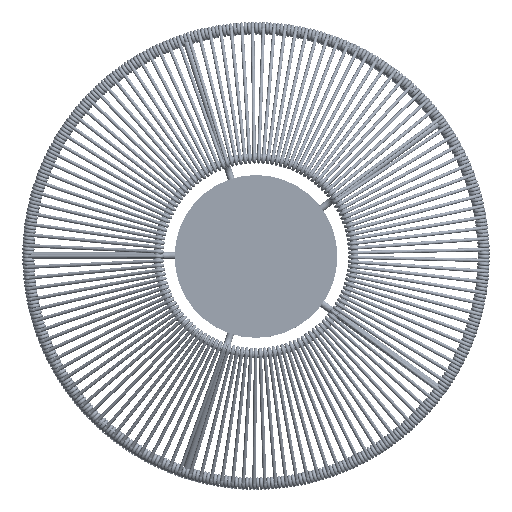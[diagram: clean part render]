
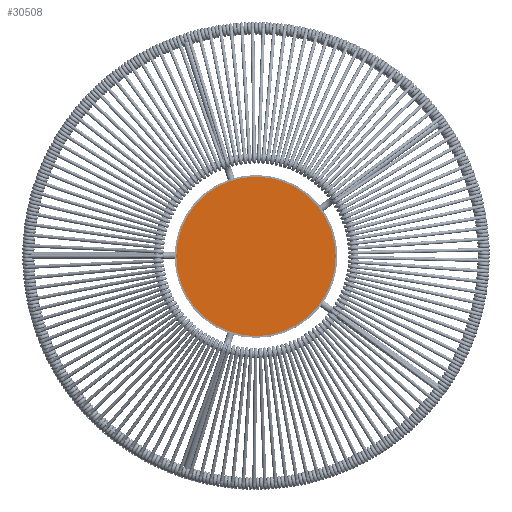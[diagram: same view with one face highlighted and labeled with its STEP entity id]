
A CAD part, top view. The second image highlights one B-rep face of the part: STEP entity #30508.
In plain terms, the highlighted planar face has unit normal (0, 0, 1).
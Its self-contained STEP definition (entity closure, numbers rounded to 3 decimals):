
#1084=PLANE('',#37585);
#8416=FACE_OUTER_BOUND('',#11026,.T.);
#11026=EDGE_LOOP('',(#26905));
#14001=CIRCLE('',#37584,91.);
#16106=VERTEX_POINT('',#59254);
#19707=EDGE_CURVE('',#16106,#16106,#14001,.T.);
#26905=ORIENTED_EDGE('',*,*,#19707,.F.);
#30508=ADVANCED_FACE('',(#8416),#1084,.T.);
#37584=AXIS2_PLACEMENT_3D('',#59256,#49296,#49297);
#37585=AXIS2_PLACEMENT_3D('',#59257,#49298,#49299);
#49296=DIRECTION('center_axis',(0.,0.,-1.));
#49297=DIRECTION('ref_axis',(-1.,0.,0.));
#49298=DIRECTION('center_axis',(0.,0.,1.));
#49299=DIRECTION('ref_axis',(-1.,0.,0.));
#59254=CARTESIAN_POINT('',(91.,0.,405.));
#59256=CARTESIAN_POINT('Origin',(0.,0.,405.));
#59257=CARTESIAN_POINT('Origin',(0.,0.,405.));
